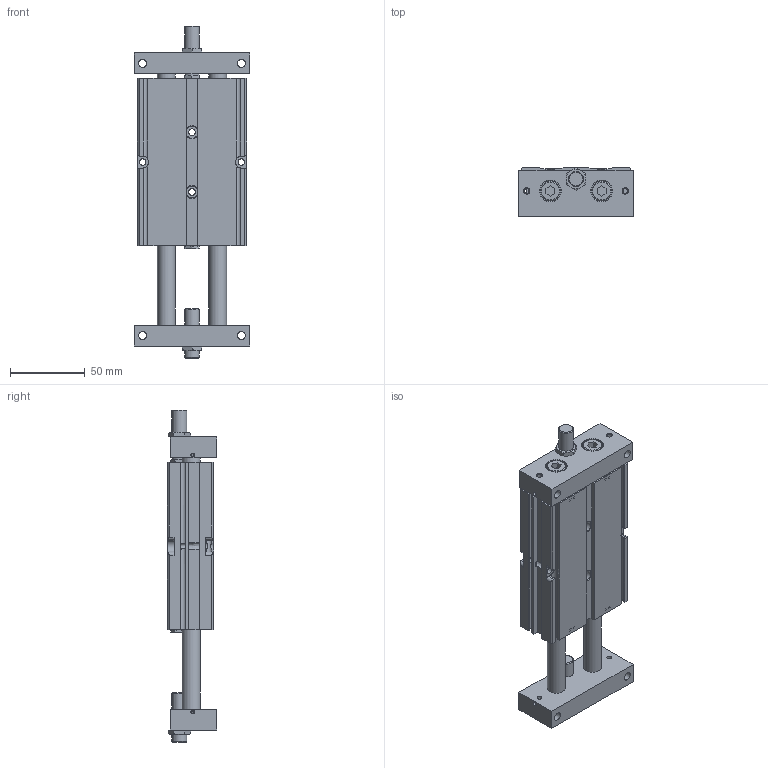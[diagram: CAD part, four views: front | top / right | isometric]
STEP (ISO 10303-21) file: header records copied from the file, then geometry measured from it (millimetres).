
FILE_DESCRIPTION((''),'2;1');
FILE_NAME('I:\3D電子目錄\氣缸\STU\STU\STU25\STU25x50.stp','2007-10-01T11:40:24',('Administrator'),(''),'Autodesk Inventor 11','Autodesk Inventor 11','');
FILE_SCHEMA(('AUTOMOTIVE_DESIGN { 1 0 10303 214 1 1 1 1 }'));
Length unit declared in the file: millimetre
Products named in the file (1): STU25
Bounding box: 77 x 33 x 222 mm (x, y, z)
Volume: 302310.9 mm3; surface area: 64389.5 mm2
Topology: 1 solids, 1 shells, 350 faces, 884 edges, 559 vertices
Faces by surface type: plane 163, cone 81, bspline 58, cylinder 44, torus 4
Full cylindrical faces by diameter (mm): 2.459 x2, 8 x2, 10 x4, 12 x2, 13 x4, 14 x4, 28 x2, 29.6 x2
Entity records: 11237 total; most frequent: CARTESIAN_POINT 3733, ORIENTED_EDGE 1484, DIRECTION 1462, EDGE_CURVE 742, AXIS2_PLACEMENT_3D 555, EDGE_LOOP 530, VERTEX_POINT 522, VECTOR 352
